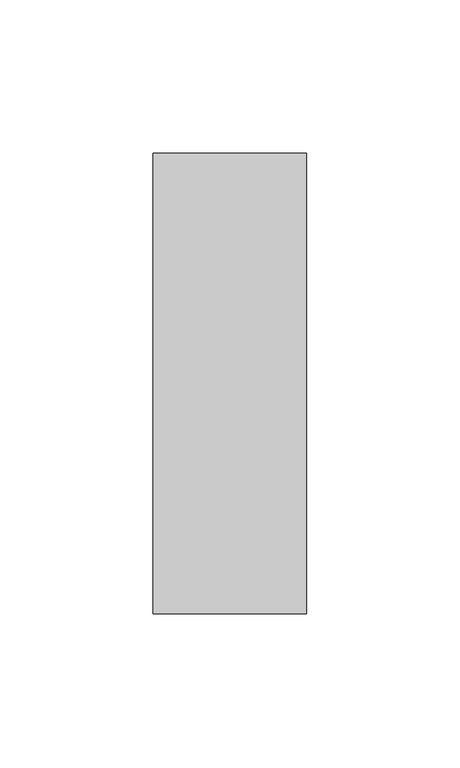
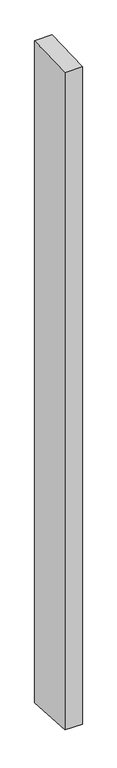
"""IFC4 building model written with IfcOpenShell, lengths in millimetres: member geometry, Прямоугольный импост : 50 x 150 мм."""

from ifc_helpers import new_model, si_unit, origin, place, context, project, spatial, faceted_brep, source, transform, mapped, element, save


def member_7a247deb(model_context):
    return source(origin(), model_context, "Body", "Brep", [
        faceted_brep([(-25.0, 75.0, 2.6016301), (25.0, 75.0, 3.4224465), (25.0, 75.0, -2003.337928), (-25.0, 75.0, -2002.3083801), (-25.0, -75.0, -3.4224465), (-25.0, -75.0, -1993.4624325), (25.0, -75.0, -2.6016301), (25.0, -75.0, -1994.4919805)], [[[0, 1, 2, 3]], [[4, 0, 3, 5]], [[6, 4, 5, 7]], [[1, 6, 7, 2]], [[1, 0, 4, 6]], [[2, 7, 5, 3]]]),
    ])


if __name__ == "__main__":
    model = new_model("IFC4")
    model_context = context("Model", 3, world=origin())
    ifc_project = project(units=[si_unit("LENGTHUNIT", "METRE", prefix="MILLI")], contexts=[model_context])
    site = spatial("IfcSite", under=ifc_project)
    building = spatial("IfcBuilding", under=site)
    placement = place(None, origin())
    member_shape = member_7a247deb(model_context)
    element("IfcMember", 1, ObjectType="Прямоугольный импост : 50 x 150 мм", at=placement, inside=building, context=model_context, shape_type="MappedRepresentation", body=[
        mapped(member_shape, transform((0.0, 0.0, 0.0), x_axis=(1.0, 0.0, 0.0), y_axis=(0.0, 1.0, 0.0), z_axis=(0.0, 0.0, 1.0))),
    ])
    save(model, "model.ifc")
